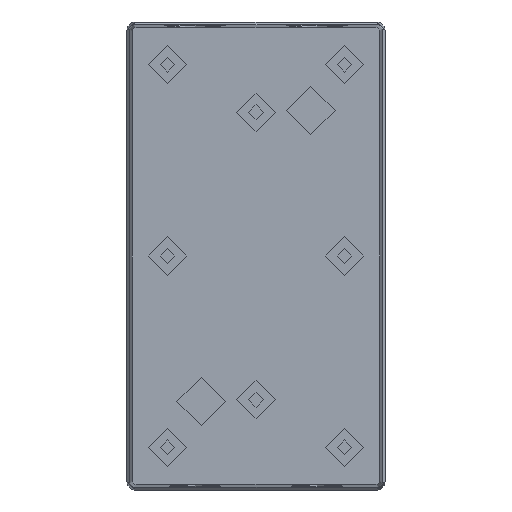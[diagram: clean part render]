
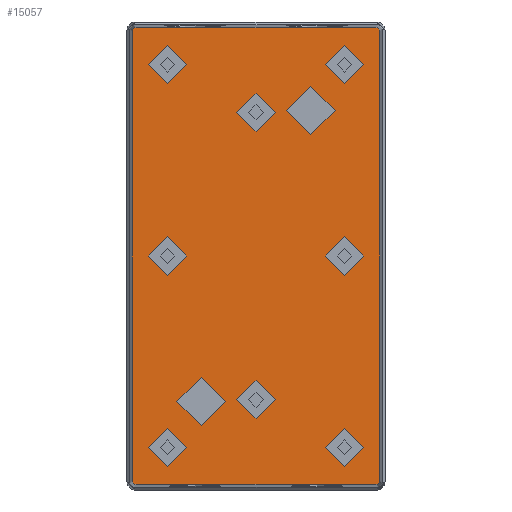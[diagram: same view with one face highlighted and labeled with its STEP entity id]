
A CAD part, front view. The second image highlights one B-rep face of the part: STEP entity #15057.
In plain terms, the highlighted planar face has unit normal (0, -1, 0).
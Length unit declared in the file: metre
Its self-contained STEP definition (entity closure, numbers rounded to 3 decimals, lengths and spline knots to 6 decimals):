
#12918=CARTESIAN_POINT('',(0.0383,-0.019593,0.0716));
#12919=DIRECTION('',(0.,-1.,0.));
#12920=DIRECTION('',(0.,0.,-1.));
#12921=AXIS2_PLACEMENT_3D('',#12918,#12919,#12920);
#12922=PLANE('',#12921);
#13007=CARTESIAN_POINT('',(0.02735,-0.019593,0.0592));
#13008=DIRECTION('',(0.,-1.,0.));
#13009=DIRECTION('',(1.,0.,0.));
#13010=AXIS2_PLACEMENT_3D('',#13007,#13008,#13009);
#13011=CIRCLE('',#13010,0.0059);
#13012=CARTESIAN_POINT('',(0.02145,-0.019593,0.0592));
#13013=VERTEX_POINT('',#13012);
#13014=EDGE_CURVE('',#13013,#13013,#13011,.T.);
#13111=CARTESIAN_POINT('',(0.,-0.019593,-0.0446));
#13112=DIRECTION('',(0.,-1.,0.));
#13113=DIRECTION('',(-1.,0.,0.));
#13114=AXIS2_PLACEMENT_3D('',#13111,#13112,#13113);
#13115=CIRCLE('',#13114,0.0059);
#13116=CARTESIAN_POINT('',(0.0059,-0.019593,-0.0446));
#13117=VERTEX_POINT('',#13116);
#13118=EDGE_CURVE('',#13117,#13117,#13115,.T.);
#13215=CARTESIAN_POINT('',(-0.02735,-0.019593,-0.0592));
#13216=DIRECTION('',(0.,-1.,0.));
#13217=DIRECTION('',(-1.,0.,0.));
#13218=AXIS2_PLACEMENT_3D('',#13215,#13216,#13217);
#13219=CIRCLE('',#13218,0.0059);
#13220=CARTESIAN_POINT('',(-0.02145,-0.019593,-0.0592));
#13221=VERTEX_POINT('',#13220);
#13222=EDGE_CURVE('',#13221,#13221,#13219,.T.);
#13319=CARTESIAN_POINT('',(0.,-0.019593,0.0446));
#13320=DIRECTION('',(0.,-1.,0.));
#13321=DIRECTION('',(-1.,0.,0.));
#13322=AXIS2_PLACEMENT_3D('',#13319,#13320,#13321);
#13323=CIRCLE('',#13322,0.0059);
#13324=CARTESIAN_POINT('',(0.0059,-0.019593,0.0446));
#13325=VERTEX_POINT('',#13324);
#13326=EDGE_CURVE('',#13325,#13325,#13323,.T.);
#13538=CARTESIAN_POINT('',(-0.037001,-0.019593,0.07075));
#13539=VERTEX_POINT('',#13538);
#13558=CARTESIAN_POINT('',(-0.0383,-0.019593,0.06945));
#13559=VERTEX_POINT('',#13558);
#13562=CARTESIAN_POINT('',(-0.037,-0.019593,0.069449));
#13563=DIRECTION('',(0.,-1.,0.));
#13564=DIRECTION('',(-0.685,0.,0.728));
#13565=AXIS2_PLACEMENT_3D('',#13562,#13563,#13564);
#13566=ELLIPSE('',#13565,0.001301,0.0013);
#13567=EDGE_CURVE('',#13539,#13559,#13566,.T.);
#13585=CARTESIAN_POINT('',(-0.0383,-0.019593,0.0716));
#13586=DIRECTION('',(0.,0.,-1.));
#13587=VECTOR('',#13586,1.);
#13588=LINE('',#13585,#13587);
#13589=CARTESIAN_POINT('',(-0.0383,-0.019593,-0.06945));
#13590=VERTEX_POINT('',#13589);
#13591=EDGE_CURVE('',#13559,#13590,#13588,.T.);
#13637=CARTESIAN_POINT('',(-0.037001,-0.019593,-0.07075));
#13638=VERTEX_POINT('',#13637);
#13641=CARTESIAN_POINT('',(-0.037,-0.019593,-0.069449));
#13642=DIRECTION('',(0.,-1.,0.));
#13643=DIRECTION('',(0.685,0.,0.728));
#13644=AXIS2_PLACEMENT_3D('',#13641,#13642,#13643);
#13645=ELLIPSE('',#13644,0.001301,0.0013);
#13646=EDGE_CURVE('',#13590,#13638,#13645,.T.);
#14267=CARTESIAN_POINT('',(0.037001,-0.019593,-0.07075));
#14268=VERTEX_POINT('',#14267);
#14271=CARTESIAN_POINT('',(0.04,-0.019593,-0.07075));
#14272=DIRECTION('',(-1.,0.,0.));
#14273=VECTOR('',#14272,1.);
#14274=LINE('',#14271,#14273);
#14275=EDGE_CURVE('',#14268,#13638,#14274,.T.);
#14293=CARTESIAN_POINT('',(0.037,-0.019593,-0.069449));
#14294=DIRECTION('',(0.,-1.,0.));
#14295=DIRECTION('',(0.685,0.,-0.728));
#14296=AXIS2_PLACEMENT_3D('',#14293,#14294,#14295);
#14297=ELLIPSE('',#14296,0.001301,0.0013);
#14298=CARTESIAN_POINT('',(0.0383,-0.019593,-0.06945));
#14299=VERTEX_POINT('',#14298);
#14300=EDGE_CURVE('',#14268,#14299,#14297,.T.);
#14337=CARTESIAN_POINT('',(0.037,-0.019593,0.069449));
#14338=DIRECTION('',(0.,-1.,0.));
#14339=DIRECTION('',(-0.685,0.,-0.728));
#14340=AXIS2_PLACEMENT_3D('',#14337,#14338,#14339);
#14341=ELLIPSE('',#14340,0.001301,0.0013);
#14342=CARTESIAN_POINT('',(0.0383,-0.019593,0.06945));
#14343=VERTEX_POINT('',#14342);
#14344=CARTESIAN_POINT('',(0.037001,-0.019593,0.07075));
#14345=VERTEX_POINT('',#14344);
#14346=EDGE_CURVE('',#14343,#14345,#14341,.T.);
#14466=CARTESIAN_POINT('',(0.0383,-0.019593,0.0716));
#14467=DIRECTION('',(0.,0.,-1.));
#14468=VECTOR('',#14467,1.);
#14469=LINE('',#14466,#14468);
#14470=EDGE_CURVE('',#14343,#14299,#14469,.T.);
#14574=CARTESIAN_POINT('',(0.02735,-0.019593,0.));
#14575=DIRECTION('',(0.,-1.,0.));
#14576=DIRECTION('',(1.,0.,0.));
#14577=AXIS2_PLACEMENT_3D('',#14574,#14575,#14576);
#14578=CIRCLE('',#14577,0.0059);
#14579=CARTESIAN_POINT('',(0.02145,-0.019593,0.));
#14580=VERTEX_POINT('',#14579);
#14581=EDGE_CURVE('',#14580,#14580,#14578,.T.);
#14678=CARTESIAN_POINT('',(-0.02735,-0.019593,0.0592));
#14679=DIRECTION('',(0.,-1.,0.));
#14680=DIRECTION('',(-1.,0.,0.));
#14681=AXIS2_PLACEMENT_3D('',#14678,#14679,#14680);
#14682=CIRCLE('',#14681,0.0059);
#14683=CARTESIAN_POINT('',(-0.02145,-0.019593,0.0592));
#14684=VERTEX_POINT('',#14683);
#14685=EDGE_CURVE('',#14684,#14684,#14682,.T.);
#14782=CARTESIAN_POINT('',(-0.02735,-0.019593,0.));
#14783=DIRECTION('',(0.,-1.,0.));
#14784=DIRECTION('',(-1.,0.,0.));
#14785=AXIS2_PLACEMENT_3D('',#14782,#14783,#14784);
#14786=CIRCLE('',#14785,0.0059);
#14787=CARTESIAN_POINT('',(-0.02145,-0.019593,0.));
#14788=VERTEX_POINT('',#14787);
#14789=EDGE_CURVE('',#14788,#14788,#14786,.T.);
#14886=CARTESIAN_POINT('',(0.02735,-0.019593,-0.0592));
#14887=DIRECTION('',(0.,-1.,0.));
#14888=DIRECTION('',(1.,0.,0.));
#14889=AXIS2_PLACEMENT_3D('',#14886,#14887,#14888);
#14890=CIRCLE('',#14889,0.0059);
#14891=CARTESIAN_POINT('',(0.02145,-0.019593,-0.0592));
#14892=VERTEX_POINT('',#14891);
#14893=EDGE_CURVE('',#14892,#14892,#14890,.T.);
#14939=CARTESIAN_POINT('',(-0.017,-0.019593,-0.045));
#14940=DIRECTION('',(0.,-1.,0.));
#14941=DIRECTION('',(1.,0.,0.));
#14942=AXIS2_PLACEMENT_3D('',#14939,#14940,#14941);
#14943=CIRCLE('',#14942,0.0075);
#14944=CARTESIAN_POINT('',(-0.0245,-0.019593,-0.045));
#14945=VERTEX_POINT('',#14944);
#14946=EDGE_CURVE('',#14945,#14945,#14943,.T.);
#14992=CARTESIAN_POINT('',(0.017,-0.019593,0.045));
#14993=DIRECTION('',(0.,-1.,0.));
#14994=DIRECTION('',(1.,0.,0.));
#14995=AXIS2_PLACEMENT_3D('',#14992,#14993,#14994);
#14996=CIRCLE('',#14995,0.0075);
#14997=CARTESIAN_POINT('',(0.0095,-0.019593,0.045));
#14998=VERTEX_POINT('',#14997);
#14999=EDGE_CURVE('',#14998,#14998,#14996,.T.);
#15012=ORIENTED_EDGE('',*,*,#14999,.F.);
#15013=EDGE_LOOP('',(#15012));
#15014=FACE_BOUND('',#15013,.T.);
#15015=ORIENTED_EDGE('',*,*,#14946,.F.);
#15016=EDGE_LOOP('',(#15015));
#15017=FACE_BOUND('',#15016,.T.);
#15018=ORIENTED_EDGE('',*,*,#14893,.F.);
#15019=EDGE_LOOP('',(#15018));
#15020=FACE_BOUND('',#15019,.T.);
#15021=ORIENTED_EDGE('',*,*,#14789,.F.);
#15022=EDGE_LOOP('',(#15021));
#15023=FACE_BOUND('',#15022,.T.);
#15024=ORIENTED_EDGE('',*,*,#14685,.F.);
#15025=EDGE_LOOP('',(#15024));
#15026=FACE_BOUND('',#15025,.T.);
#15027=ORIENTED_EDGE('',*,*,#14581,.F.);
#15028=EDGE_LOOP('',(#15027));
#15029=FACE_BOUND('',#15028,.T.);
#15030=ORIENTED_EDGE('',*,*,#14470,.F.);
#15031=ORIENTED_EDGE('',*,*,#14346,.T.);
#15032=CARTESIAN_POINT('',(0.04,-0.019593,0.07075));
#15033=DIRECTION('',(-1.,0.,0.));
#15034=VECTOR('',#15033,1.);
#15035=LINE('',#15032,#15034);
#15036=EDGE_CURVE('',#14345,#13539,#15035,.T.);
#15037=ORIENTED_EDGE('',*,*,#15036,.T.);
#15038=ORIENTED_EDGE('',*,*,#13567,.T.);
#15039=ORIENTED_EDGE('',*,*,#13591,.T.);
#15040=ORIENTED_EDGE('',*,*,#13646,.T.);
#15041=ORIENTED_EDGE('',*,*,#14275,.F.);
#15042=ORIENTED_EDGE('',*,*,#14300,.T.);
#15043=EDGE_LOOP('',(#15030,#15031,#15037,#15038,#15039,#15040,#15041,#15042));
#15044=FACE_BOUND('',#15043,.T.);
#15045=ORIENTED_EDGE('',*,*,#13326,.F.);
#15046=EDGE_LOOP('',(#15045));
#15047=FACE_BOUND('',#15046,.T.);
#15048=ORIENTED_EDGE('',*,*,#13222,.F.);
#15049=EDGE_LOOP('',(#15048));
#15050=FACE_BOUND('',#15049,.T.);
#15051=ORIENTED_EDGE('',*,*,#13118,.F.);
#15052=EDGE_LOOP('',(#15051));
#15053=FACE_BOUND('',#15052,.T.);
#15054=ORIENTED_EDGE('',*,*,#13014,.F.);
#15055=EDGE_LOOP('',(#15054));
#15056=FACE_BOUND('',#15055,.T.);
#15057=ADVANCED_FACE('',(#15014,#15017,#15020,#15023,#15026,#15029,#15044,#15047,#15050,#15053,#15056),#12922,.T.);
